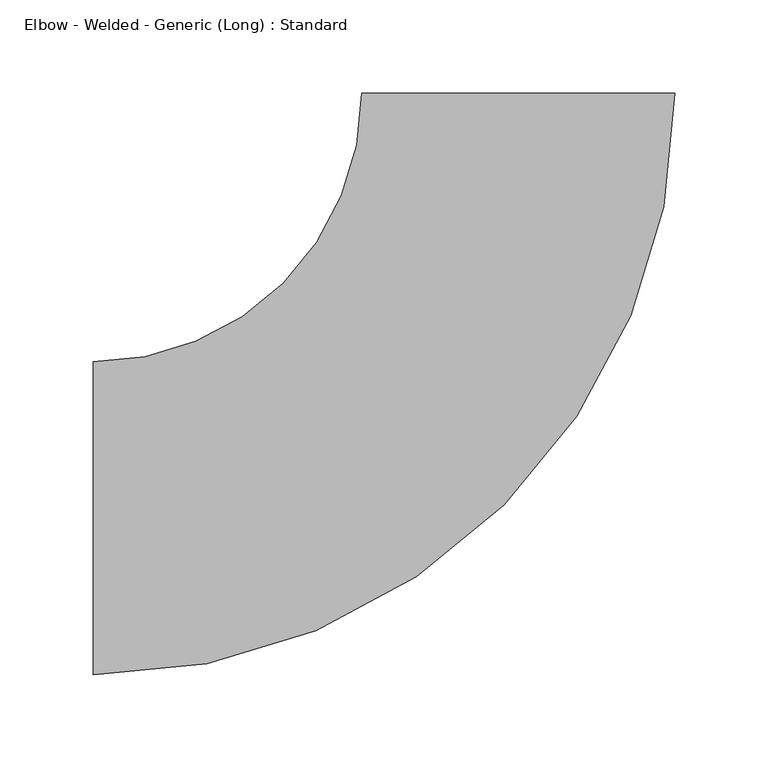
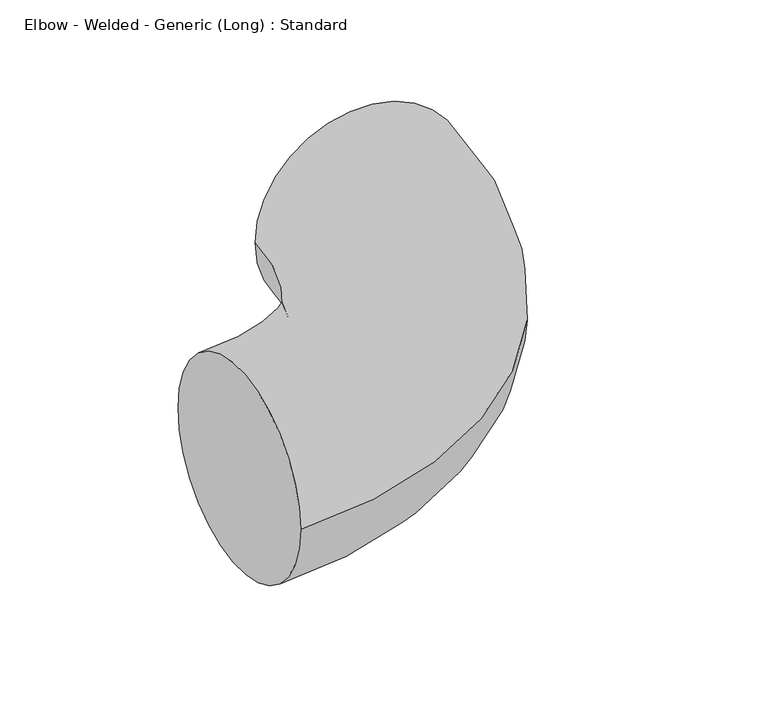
"""IFC4 building model written with IfcOpenShell, lengths in millimetres: pipe fitting geometry, Elbow - Welded - Generic (Long) : Standard."""

from ifc_helpers import new_model, si_unit, point, frame, origin, place, context, project, spatial, circle_curve, ellipse_curve, trimmed, source, transform, mapped, element, save
from ifc_brep_helpers import plane_surface, revolved_surface, advanced_brep


def elbow_welded_generic_long_standard_fdc911b9(model_context):
    return source(origin(), model_context, "Body", "AdvancedBrep", [
        advanced_brep(
        [(-228.6, -84.1375, 0.0), (-228.6, 84.1375, 0.0), (84.1375, 228.6, 0.0), (-84.1375, 228.6, 0.0)],
        [
            (0, 1, circle_curve(frame((-228.6, 0.0, 0.0), z_axis=(-1.0, 0.0, 0.0), x_axis=(0.0, 1.0, 0.0)), 84.1375)),
            (1, 0, circle_curve(frame((-228.6, 0.0, 0.0), z_axis=(-1.0, 0.0, 0.0), x_axis=(0.0, 1.0, 0.0)), 84.1375)),
            (2, 3, circle_curve(frame((0.0, 228.6, 0.0), z_axis=(0.0, 1.0, 0.0), x_axis=(-1.0, 0.0, 0.0)), 84.1375)),
            (3, 2, circle_curve(frame((0.0, 228.6, 0.0), z_axis=(0.0, 1.0, 0.0), x_axis=(-1.0, 0.0, 0.0)), 84.1375)),
            (3, 1, circle_curve(frame((-228.6, 228.6, 0.0), z_axis=(0.0, 0.0, -1.0), x_axis=(0.0, -1.0, 0.0)), 144.4625)),
            (0, 2, circle_curve(frame((-228.6, 228.6, 0.0), z_axis=(0.0, 0.0, 1.0), x_axis=(0.0, -1.0, 0.0)), 312.7375)),
        ],
        [
            plane_surface(frame((-228.6, 0.0, 0.0), z_axis=(-1.0, 0.0, 0.0), x_axis=(0.0, 0.0, 1.0))),
            plane_surface(frame((0.0, 228.6, 0.0), z_axis=(0.0, 1.0, 0.0), x_axis=(0.0, 0.0, 1.0))),
            revolved_surface(trimmed(ellipse_curve(frame((-228.6, 0.0, 0.0), z_axis=(-1.0, 0.0, 0.0), x_axis=(0.0, 1.0, 0.0)), 84.1375, 84.1375), [point((-228.6, -84.1375, 0.0))], [point((-228.6, 84.1375, 0.0))], True, "CARTESIAN"), (-228.6, 228.6, 0.0), (0.0, 0.0, 1.0)),
            revolved_surface(trimmed(ellipse_curve(frame((-228.6, 0.0, 0.0), z_axis=(-1.0, 0.0, 0.0), x_axis=(0.0, 1.0, 0.0)), 84.1375, 84.1375), [point((-228.6, 84.1375, 0.0))], [point((-228.6, -84.1375, 0.0))], True, "CARTESIAN"), (-228.6, 228.6, 0.0), (0.0, 0.0, 1.0)),
        ],
        [
            (0, [[1, 2]]),
            (1, [[3, 4]]),
            (2, [[5, -1, 6, -4]]),
            (3, [[-6, -2, -5, -3]]),
        ],
    ),
    ])


if __name__ == "__main__":
    model = new_model("IFC4")
    model_context = context("Model", 3, world=origin())
    ifc_project = project(units=[si_unit("LENGTHUNIT", "METRE", prefix="MILLI")], contexts=[model_context])
    site = spatial("IfcSite", under=ifc_project)
    building = spatial("IfcBuilding", under=site)
    placement = place(None, origin())
    elbow_welded_generic_long_standard_shape = elbow_welded_generic_long_standard_fdc911b9(model_context)
    element("IfcPipeFitting", 1, ObjectType="Elbow - Welded - Generic (Long) : Standard", at=placement, inside=building, context=model_context, shape_type="MappedRepresentation", body=[
        mapped(elbow_welded_generic_long_standard_shape, transform((0.0, 0.0, 0.0), x_axis=(1.0, 0.0, 0.0), y_axis=(0.0, 1.0, 0.0), z_axis=(0.0, 0.0, 1.0))),
    ])
    save(model, "model.ifc")
